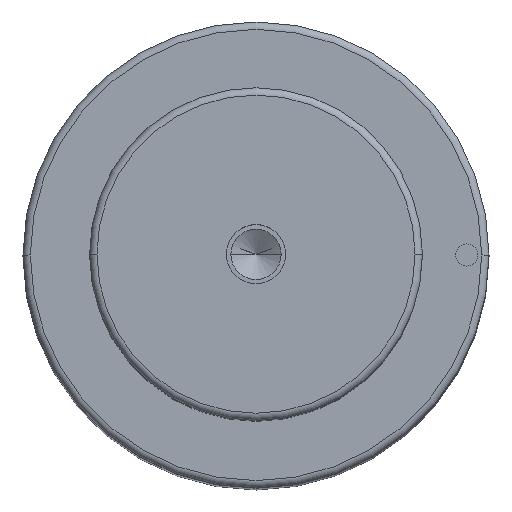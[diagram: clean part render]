
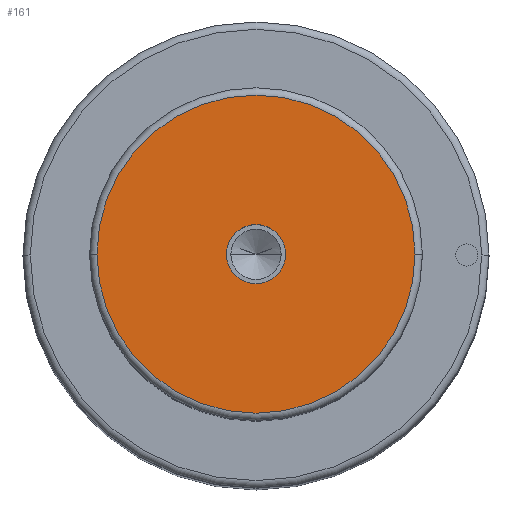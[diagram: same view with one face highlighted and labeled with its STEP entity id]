
A CAD part, top view. The second image highlights one B-rep face of the part: STEP entity #161.
In plain terms, the highlighted planar face has unit normal (0, 0, 1).
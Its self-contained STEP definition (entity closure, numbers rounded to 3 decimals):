
#104=PLANE('',#823);
#113=FACE_BOUND('',#265,.T.);
#114=FACE_BOUND('',#266,.T.);
#161=ADVANCED_FACE('',(#113,#114),#104,.T.);
#265=EDGE_LOOP('',(#405,#406));
#266=EDGE_LOOP('',(#407,#408));
#323=CIRCLE('',#817,4.);
#324=CIRCLE('',#819,4.);
#325=CIRCLE('',#821,21.5);
#326=CIRCLE('',#822,21.5);
#405=ORIENTED_EDGE('',*,*,#649,.F.);
#406=ORIENTED_EDGE('',*,*,#650,.F.);
#407=ORIENTED_EDGE('',*,*,#648,.T.);
#408=ORIENTED_EDGE('',*,*,#646,.T.);
#582=VERTEX_POINT('',#1204);
#583=VERTEX_POINT('',#1206);
#584=VERTEX_POINT('',#1212);
#585=VERTEX_POINT('',#1213);
#646=EDGE_CURVE('',#583,#582,#323,.T.);
#648=EDGE_CURVE('',#582,#583,#324,.T.);
#649=EDGE_CURVE('',#584,#585,#325,.T.);
#650=EDGE_CURVE('',#585,#584,#326,.T.);
#817=AXIS2_PLACEMENT_3D('',#1205,#947,#948);
#819=AXIS2_PLACEMENT_3D('',#1209,#952,#953);
#821=AXIS2_PLACEMENT_3D('',#1211,#956,#957);
#822=AXIS2_PLACEMENT_3D('',#1214,#958,#959);
#823=AXIS2_PLACEMENT_3D('',#1215,#960,#961);
#947=DIRECTION('',(0.,0.,-1.));
#948=DIRECTION('',(0.,1.,0.));
#952=DIRECTION('',(0.,0.,-1.));
#953=DIRECTION('',(0.,-1.,0.));
#956=DIRECTION('',(0.,0.,-1.));
#957=DIRECTION('',(0.,1.,0.));
#958=DIRECTION('',(0.,0.,-1.));
#959=DIRECTION('',(0.,-1.,0.));
#960=DIRECTION('',(0.,0.,1.));
#961=DIRECTION('',(0.,-1.,0.));
#1204=CARTESIAN_POINT('',(-4.,0.,220.));
#1205=CARTESIAN_POINT('',(0.,0.,220.));
#1206=CARTESIAN_POINT('',(4.,0.,220.));
#1209=CARTESIAN_POINT('',(0.,0.,220.));
#1211=CARTESIAN_POINT('',(0.,0.,220.));
#1212=CARTESIAN_POINT('',(21.5,0.,220.));
#1213=CARTESIAN_POINT('',(-21.5,0.,220.));
#1214=CARTESIAN_POINT('',(0.,0.,220.));
#1215=CARTESIAN_POINT('',(0.,0.,220.));
